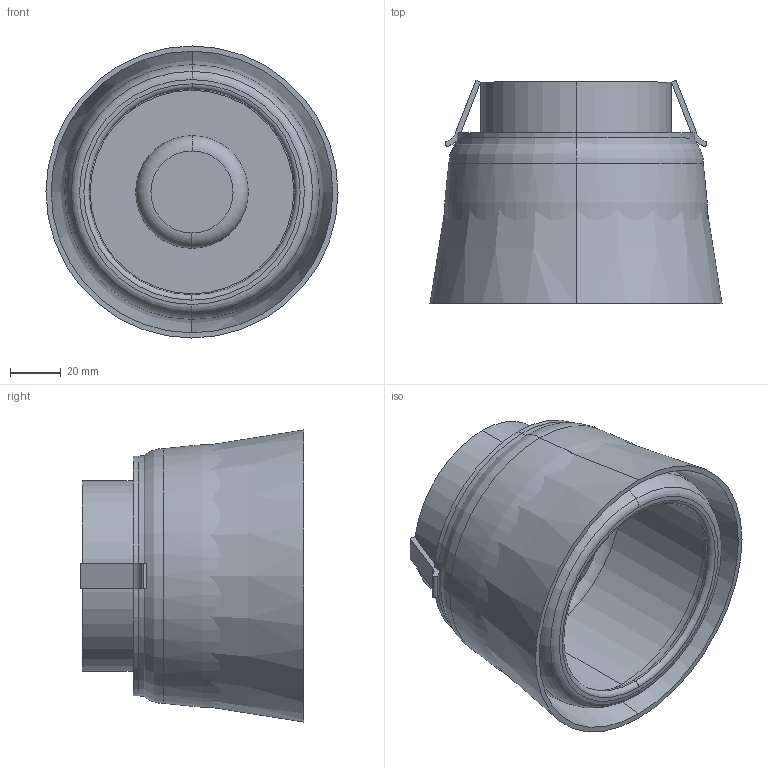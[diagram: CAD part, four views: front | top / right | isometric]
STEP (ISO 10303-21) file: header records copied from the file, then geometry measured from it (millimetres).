
FILE_DESCRIPTION (( 'STEP AP214' ), '1' );
FILE_NAME ('SPOT MODEL 2.STEP', '2025-09-18T13:59:21', ( '' ), ( '' ), 'SwSTEP 2.0', 'SolidWorks 2018', '' );
FILE_SCHEMA (( 'AUTOMOTIVE_DESIGN' ));
Length unit declared in the file: millimetre
Products named in the file (2): SPOT MODEL 2
Assembly tree (1 placements, depth 2):
  SPOT MODEL 2
    SPOT MODEL 2
Bounding box: 114.73 x 87.73 x 114.73 mm (x, y, z)
Volume: 229107.6 mm3; surface area: 143470.8 mm2
Topology: 8 solids, 8 shells, 73 faces, 146 edges, 92 vertices
Faces by surface type: plane 25, cylinder 24, torus 20, cone 4
Entity records: 2073 total; most frequent: DIRECTION 400, CARTESIAN_POINT 315, ORIENTED_EDGE 292, AXIS2_PLACEMENT_3D 177, EDGE_CURVE 146, CIRCLE 100, VERTEX_POINT 92, EDGE_LOOP 82
